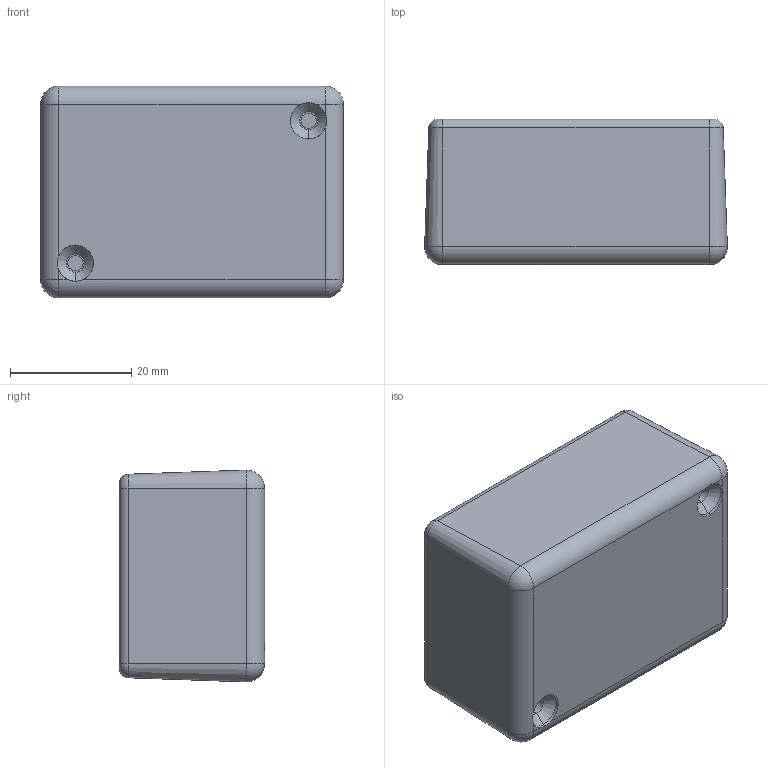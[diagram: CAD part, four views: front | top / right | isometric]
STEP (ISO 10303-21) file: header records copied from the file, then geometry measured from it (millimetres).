
FILE_DESCRIPTION (( 'STEP AP203' ), '1' );
FILE_NAME ('HH-006.STEP', '2020-09-01T13:27:39', ( '' ), ( '' ), 'SwSTEP 2.0', 'SolidWorks 2020', '' );
FILE_SCHEMA (( 'CONFIG_CONTROL_DESIGN' ));
Length unit declared in the file: millimetre
Products named in the file (3): DM-003-P-1-11136; HH-006
Assembly tree (2 placements, depth 2):
  HH-006
    DM-003-P-1-11136
    HH-006
Bounding box: 50 x 24 x 35 mm (x, y, z)
Volume: 12710.7 mm3; surface area: 15510.1 mm2
Topology: 2 solids, 2 shells, 118 faces, 287 edges, 182 vertices
Faces by surface type: plane 51, cone 39, cylinder 20, sphere 4, torus 4
Entity records: 3786 total; most frequent: DIRECTION 643, CARTESIAN_POINT 626, ORIENTED_EDGE 566, EDGE_CURVE 283, AXIS2_PLACEMENT_3D 243, VERTEX_POINT 182, VECTOR 157, LINE 157
